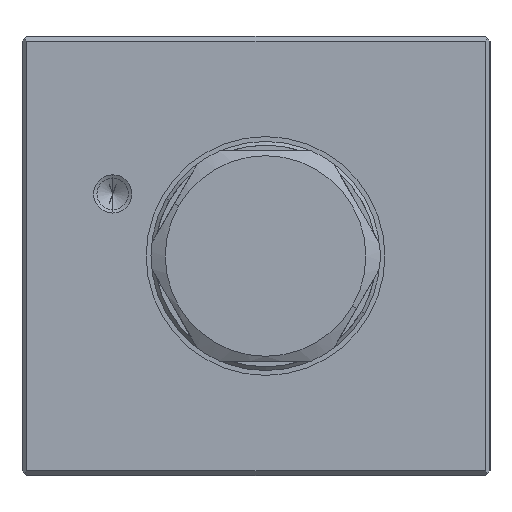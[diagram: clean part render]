
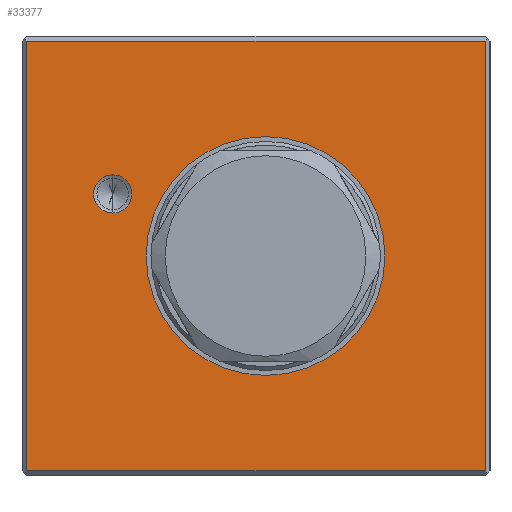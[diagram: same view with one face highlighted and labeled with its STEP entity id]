
A CAD part, left-side view. The second image highlights one B-rep face of the part: STEP entity #33377.
In plain terms, the highlighted planar face has unit normal (-1, 0, 0).
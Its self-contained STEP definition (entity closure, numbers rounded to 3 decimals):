
#4478 = AXIS2_PLACEMENT_3D ( 'NONE', #7652, #7653, #7654 ) ;
#4491 = AXIS2_PLACEMENT_3D ( 'NONE', #7634, #7647, #7648 ) ;
#4492 = VECTOR ( 'NONE', #7637, 1000. ) ;
#4495 = VECTOR ( 'NONE', #7646, 1000. ) ;
#4804 = VECTOR ( 'NONE', #8781, 1000. ) ;
#4806 = VECTOR ( 'NONE', #8784, 1000. ) ;
#7634 = CARTESIAN_POINT ( 'NONE',  ( -34., 15.5, 6.5 ) ) ;
#7635 = LINE ( 'NONE', #7636, #4492 ) ;
#7636 = CARTESIAN_POINT ( 'NONE',  ( -34., 25., 22.5 ) ) ;
#7637 = DIRECTION ( 'NONE',  ( 0., 1., 0. ) ) ;
#7644 = LINE ( 'NONE', #7645, #4495 ) ;
#7645 = CARTESIAN_POINT ( 'NONE',  ( -34., 24.5, -23. ) ) ;
#7646 = DIRECTION ( 'NONE',  ( 0., 0., -1. ) ) ;
#7647 = DIRECTION ( 'NONE',  ( -1., 0., 0. ) ) ;
#7648 = DIRECTION ( 'NONE',  ( 0., 0., 1. ) ) ;
#7652 = CARTESIAN_POINT ( 'NONE',  ( -34., -0.5, 0. ) ) ;
#7653 = DIRECTION ( 'NONE',  ( -1., 0., 0. ) ) ;
#7654 = DIRECTION ( 'NONE',  ( 0., -1., 0. ) ) ;
#8779 = LINE ( 'NONE', #8780, #4804 ) ;
#8780 = CARTESIAN_POINT ( 'NONE',  ( -34., -23.5, -23. ) ) ;
#8781 = DIRECTION ( 'NONE',  ( 0., 0., 1. ) ) ;
#8782 = LINE ( 'NONE', #8783, #4806 ) ;
#8783 = CARTESIAN_POINT ( 'NONE',  ( -34., 25., -22.5 ) ) ;
#8784 = DIRECTION ( 'NONE',  ( 0., -1., 0. ) ) ;
#10124 = FACE_OUTER_BOUND ( 'NONE', #33775, .T. ) ;
#10129 = FACE_BOUND ( 'NONE', #33774, .T. ) ;
#10131 = FACE_BOUND ( 'NONE', #33773, .T. ) ;
#10133 = AXIS2_PLACEMENT_3D ( 'NONE', #12867, #12868, #12869 ) ;
#12866 = PLANE ( 'NONE',  #10133 ) ;
#12867 = CARTESIAN_POINT ( 'NONE',  ( -34., 25., -23. ) ) ;
#12868 = DIRECTION ( 'NONE',  ( -1., 0., 0. ) ) ;
#12869 = DIRECTION ( 'NONE',  ( 0., -1., 0. ) ) ;
#14417 = CARTESIAN_POINT ( 'NONE',  ( -34., 15.5, 4.5 ) ) ;
#14418 = CARTESIAN_POINT ( 'NONE',  ( -34., 15.5, 8.5 ) ) ;
#14426 = CARTESIAN_POINT ( 'NONE',  ( -34., 12., 0. ) ) ;
#14427 = CARTESIAN_POINT ( 'NONE',  ( -34., -13., 0. ) ) ;
#15400 = VERTEX_POINT ( 'NONE', #36945 ) ;
#15401 = VERTEX_POINT ( 'NONE', #36946 ) ;
#15402 = VERTEX_POINT ( 'NONE', #36947 ) ;
#15403 = VERTEX_POINT ( 'NONE', #36948 ) ;
#19910 = EDGE_CURVE ( 'NONE', #34799, #34800, #40550, .T. ) ;
#21791 = EDGE_CURVE ( 'NONE', #34808, #34809, #40625, .T. ) ;
#30921 = EDGE_CURVE ( 'NONE', #15400, #15401, #7635, .T. ) ;
#30924 = EDGE_CURVE ( 'NONE', #15401, #15402, #7644, .T. ) ;
#30925 = EDGE_CURVE ( 'NONE', #34800, #34799, #41300, .T. ) ;
#30927 = EDGE_CURVE ( 'NONE', #34809, #34808, #41302, .T. ) ;
#31260 = EDGE_CURVE ( 'NONE', #15403, #15400, #8779, .T. ) ;
#31261 = EDGE_CURVE ( 'NONE', #15402, #15403, #8782, .T. ) ;
#32281 = ORIENTED_EDGE ( 'NONE', *, *, #30921, .T. ) ;
#32283 = ORIENTED_EDGE ( 'NONE', *, *, #31260, .T. ) ;
#32284 = ORIENTED_EDGE ( 'NONE', *, *, #30924, .T. ) ;
#32286 = ORIENTED_EDGE ( 'NONE', *, *, #30927, .F. ) ;
#32289 = ORIENTED_EDGE ( 'NONE', *, *, #30925, .F. ) ;
#32292 = ORIENTED_EDGE ( 'NONE', *, *, #19910, .F. ) ;
#32294 = ORIENTED_EDGE ( 'NONE', *, *, #21791, .F. ) ;
#32816 = ORIENTED_EDGE ( 'NONE', *, *, #31261, .T. ) ;
#33377 = ADVANCED_FACE ( 'NONE', ( #10124, #10129, #10131 ), #12866, .T. ) ;
#33773 = EDGE_LOOP ( 'NONE', ( #32286, #32294 ) ) ;
#33774 = EDGE_LOOP ( 'NONE', ( #32289, #32292 ) ) ;
#33775 = EDGE_LOOP ( 'NONE', ( #32816, #32283, #32281, #32284 ) ) ;
#34799 = VERTEX_POINT ( 'NONE', #14417 ) ;
#34800 = VERTEX_POINT ( 'NONE', #14418 ) ;
#34808 = VERTEX_POINT ( 'NONE', #14426 ) ;
#34809 = VERTEX_POINT ( 'NONE', #14427 ) ;
#36945 = CARTESIAN_POINT ( 'NONE',  ( -34., -23.5, 22.5 ) ) ;
#36946 = CARTESIAN_POINT ( 'NONE',  ( -34., 24.5, 22.5 ) ) ;
#36947 = CARTESIAN_POINT ( 'NONE',  ( -34., 24.5, -22.5 ) ) ;
#36948 = CARTESIAN_POINT ( 'NONE',  ( -34., -23.5, -22.5 ) ) ;
#40550 = CIRCLE ( 'NONE', #46190, 2. ) ;
#40625 = CIRCLE ( 'NONE', #46481, 12.5 ) ;
#41300 = CIRCLE ( 'NONE', #4491, 2. ) ;
#41302 = CIRCLE ( 'NONE', #4478, 12.5 ) ;
#45982 = CARTESIAN_POINT ( 'NONE',  ( -34., 15.5, 6.5 ) ) ;
#45983 = DIRECTION ( 'NONE',  ( -1., 0., 0. ) ) ;
#45984 = DIRECTION ( 'NONE',  ( 0., 0., 1. ) ) ;
#46190 = AXIS2_PLACEMENT_3D ( 'NONE', #45982, #45983, #45984 ) ;
#46481 = AXIS2_PLACEMENT_3D ( 'NONE', #47493, #47497, #47498 ) ;
#47493 = CARTESIAN_POINT ( 'NONE',  ( -34., -0.5, 0. ) ) ;
#47497 = DIRECTION ( 'NONE',  ( -1., 0., 0. ) ) ;
#47498 = DIRECTION ( 'NONE',  ( 0., -1., 0. ) ) ;
